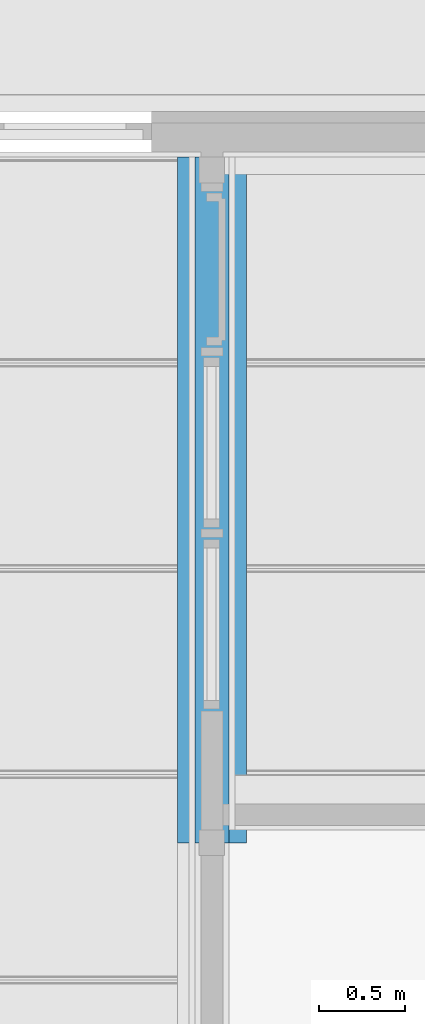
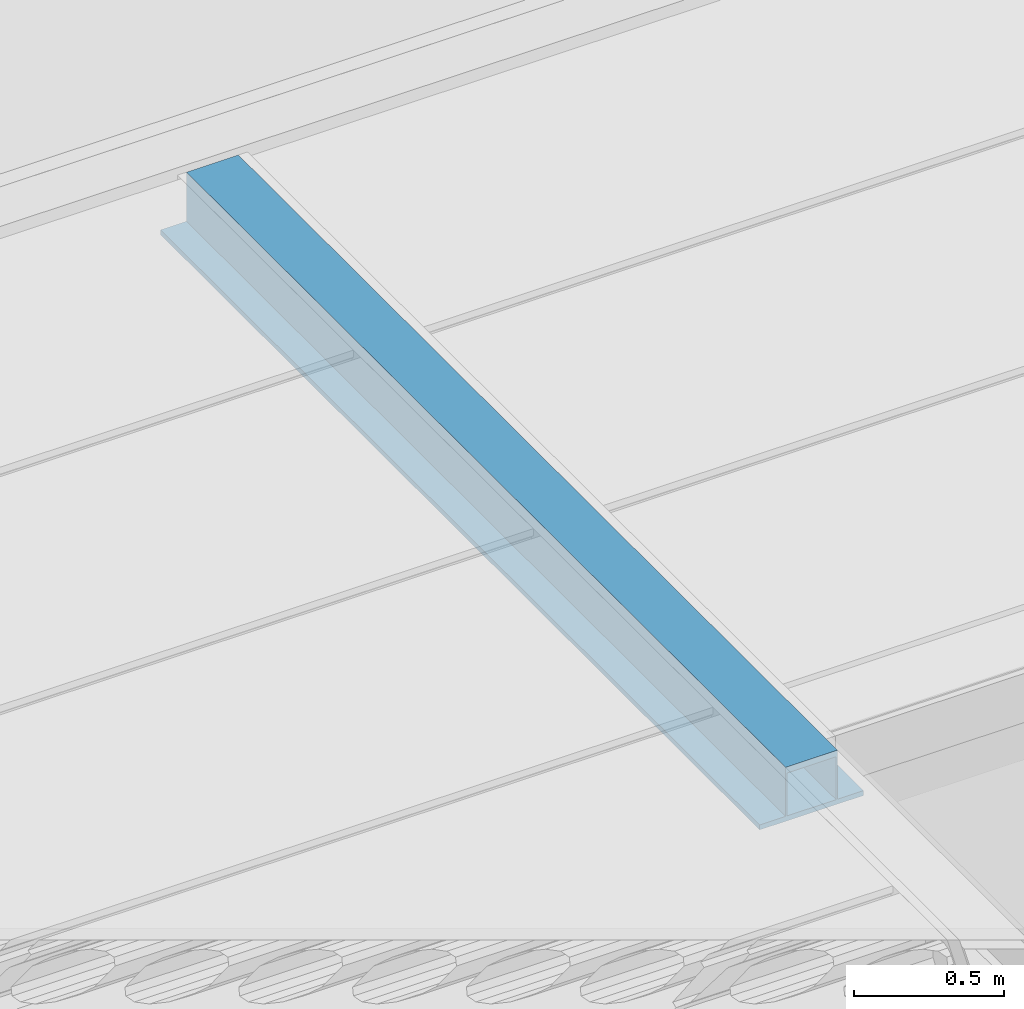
# One storey, part 19 of 45: 1 beam.
"""IFC2X3 building model written with IfcOpenShell, lengths in millimetres."""

from ifc_helpers import new_model, entity, si_unit, converted_unit, frame, origin, place, context, subcontext, project, spatial, faceted_brep, material, element, save


model = new_model("IFC2X3")

# Units and contexts
model_context = context("Model", 3, precision=1e-05, world=origin())
plan_context = context("Plan", 3, precision=1e-05, world=origin())
body_context = subcontext(model_context, "Body", "Model", "MODEL_VIEW")
ifc_project = project(units=[si_unit("LENGTHUNIT", "METRE", prefix="MILLI"), converted_unit("PLANEANGLEUNIT", "DEGREE", entity("IfcPlaneAngleMeasure", 0.0174532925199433), si_unit("PLANEANGLEUNIT", "RADIAN"), dimensions=[0, 0, 0, 0, 0, 0, 0]), si_unit("AREAUNIT", "SQUARE_METRE"), si_unit("VOLUMEUNIT", "CUBIC_METRE")], contexts=[model_context, plan_context])

# Building, storey
building_placement = place(None, origin())
building = spatial("IfcBuilding", under=ifc_project, at=building_placement, Name="HEKF Administrasjonbygg", CompositionType="ELEMENT")
storey_placement = place(building_placement, frame((0.0, 0.0, 6500.0), z_axis=(0.0, 0.0, 1.0), x_axis=(1.0, 0.0, 0.0)))
storey = spatial("IfcBuildingStorey", under=building, at=storey_placement, Name="Plan 1", CompositionType="ELEMENT", Elevation=6500.0)

# Beam
ifc_material = material(Name="HSQ")
beam_placement = place(storey_placement, frame((0.0, 0.0, -6500.0), z_axis=(0.0, 0.0, 1.0), x_axis=(1.0, 0.0, 0.0)))
element("IfcBeam", 1, at=beam_placement, inside=storey, material=ifc_material, context=body_context, shape_type="Brep", body=[
    faceted_brep([(26925.53680645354, -4000.0, 9670.0), (26925.53680645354, -4000.0, 9650.0), (26925.53680645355, 5.822301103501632e-11, 9650.0), (26925.53680645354, 5.822301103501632e-11, 9670.0), (27325.53680645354, -4000.0, 9670.0), (27325.53680645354, -4000.0, 9650.0), (26925.53680645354, -4000.0, 9650.0), (26925.53680645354, -4000.0, 9670.0), (27025.53680645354, -4000.0, 9670.0), (27025.53680645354, -4000.0, 9870.0), (27225.53680645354, -4000.0, 9870.0), (27225.53680645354, -4000.0, 9670.0), (27030.53680645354, -4000.0, 9670.0), (27220.53680645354, -4000.0, 9670.0), (27220.53680645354, -4000.0, 9845.0), (27030.53680645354, -4000.0, 9845.0), (27325.53680645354, 5.81923107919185e-11, 9670.0), (27325.53680645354, 5.81923107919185e-11, 9650.0), (27325.53680645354, -4000.0, 9650.0), (27325.53680645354, -4000.0, 9670.0), (26925.53680645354, 5.822301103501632e-11, 9670.0), (26925.53680645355, 5.822301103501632e-11, 9650.0), (27325.53680645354, 5.81923107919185e-11, 9650.0), (27325.53680645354, 5.81923107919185e-11, 9670.0), (27225.53680645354, 5.820153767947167e-11, 9670.0), (27225.53680645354, 5.820153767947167e-11, 9870.0), (27025.53680645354, 5.81892912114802e-11, 9870.0), (27025.53680645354, 5.81892912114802e-11, 9670.0), (27030.53680645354, 5.818959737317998e-11, 9670.0), (27030.53680645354, 5.818959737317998e-11, 9845.0), (27220.53680645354, 5.820123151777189e-11, 9845.0), (27220.53680645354, 5.820123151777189e-11, 9670.0), (26925.53680645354, -4000.0, 9650.0), (27325.53680645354, -4000.0, 9650.0), (27325.53680645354, 5.81923107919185e-11, 9650.0), (26925.53680645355, 5.822301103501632e-11, 9650.0), (27325.53680645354, -4000.0, 9670.0), (27225.53680645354, -4000.0, 9670.0), (27225.53680645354, 5.820153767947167e-11, 9670.0), (27325.53680645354, 5.81923107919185e-11, 9670.0), (27225.53680645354, -4000.0, 9670.0), (27225.53680645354, -4000.0, 9870.0), (27225.53680645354, 5.820153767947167e-11, 9870.0), (27225.53680645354, 5.820153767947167e-11, 9670.0), (27225.53680645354, -4000.0, 9870.0), (27025.53680645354, -4000.0, 9870.0), (27025.53680645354, 5.81892912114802e-11, 9870.0), (27225.53680645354, 5.820153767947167e-11, 9870.0), (27025.53680645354, -4000.0, 9870.0), (27025.53680645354, -4000.0, 9670.0), (27025.53680645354, 5.81892912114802e-11, 9670.0), (27025.53680645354, 5.81892912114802e-11, 9870.0), (27025.53680645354, -4000.0, 9670.0), (26925.53680645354, -4000.0, 9670.0), (26925.53680645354, 5.822301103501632e-11, 9670.0), (27025.53680645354, 5.81892912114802e-11, 9670.0), (27030.53680645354, -4000.0, 9670.0), (27030.53680645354, -4000.0, 9845.0), (27030.53680645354, 5.818959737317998e-11, 9845.0), (27030.53680645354, 5.818959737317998e-11, 9670.0), (27030.53680645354, -4000.0, 9845.0), (27220.53680645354, -4000.0, 9845.0), (27220.53680645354, 5.820123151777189e-11, 9845.0), (27030.53680645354, 5.818959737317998e-11, 9845.0), (27220.53680645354, -4000.0, 9845.0), (27220.53680645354, -4000.0, 9670.0), (27220.53680645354, 5.820123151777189e-11, 9670.0), (27220.53680645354, 5.820123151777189e-11, 9845.0), (27220.53680645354, -4000.0, 9670.0), (27030.53680645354, -4000.0, 9670.0), (27030.53680645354, 5.818959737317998e-11, 9670.0), (27220.53680645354, 5.820123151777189e-11, 9670.0)], [[[0, 1, 2, 3]], [[4, 5, 6, 7, 8, 9, 10, 11], [12, 13, 14, 15]], [[16, 17, 18, 19]], [[20, 21, 22, 23, 24, 25, 26, 27], [28, 29, 30, 31]], [[32, 33, 34, 35]], [[36, 37, 38, 39]], [[40, 41, 42, 43]], [[44, 45, 46, 47]], [[48, 49, 50, 51]], [[52, 53, 54, 55]], [[56, 57, 58, 59]], [[60, 61, 62, 63]], [[64, 65, 66, 67]], [[68, 69, 70, 71]]], orient=[[False], [False, False], [False], [False, False], [False], [False], [False], [False], [False], [False], [False], [False], [False], [False]]),
])

save(model, "model.ifc")
